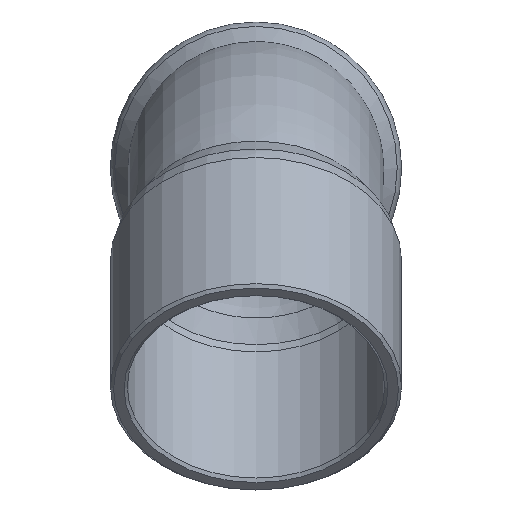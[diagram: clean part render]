
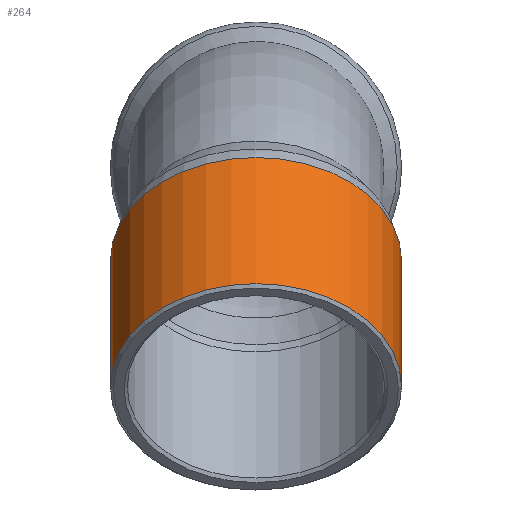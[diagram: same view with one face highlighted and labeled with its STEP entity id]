
A CAD part, top view. The second image highlights one B-rep face of the part: STEP entity #264.
In plain terms, the highlighted free-form (B-spline) face has degree [1, 2] with [2, 9] control points.
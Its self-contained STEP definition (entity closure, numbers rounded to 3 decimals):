
#192=CARTESIAN_POINT('',(0.,11.842,27.964));
#193=VERTEX_POINT('',#192);
#194=CARTESIAN_POINT('',(0.0,5.445,21.567));
#195=DIRECTION('',(0.0,-0.707,0.707));
#196=DIRECTION('',(0.0,-0.707,-0.707));
#197=AXIS2_PLACEMENT_3D('',#194,#195,#196);
#198=CIRCLE('',#197,9.048);
#199=EDGE_CURVE('',#193,#193,#198,.T.);
#224=CARTESIAN_POINT('',(0.,13.294,0.923));
#225=CARTESIAN_POINT('',(0.,-7.35,21.567));
#226=CARTESIAN_POINT('',(-9.047,13.294,0.923));
#227=CARTESIAN_POINT('',(-9.047,-7.35,21.567));
#228=CARTESIAN_POINT('',(-9.047,19.691,7.32));
#229=CARTESIAN_POINT('',(-9.047,-0.953,27.964));
#230=CARTESIAN_POINT('',(-9.047,26.089,13.718));
#231=CARTESIAN_POINT('',(-9.047,5.445,34.362));
#232=CARTESIAN_POINT('',(0.,26.089,13.718));
#233=CARTESIAN_POINT('',(0.,5.445,34.362));
#234=CARTESIAN_POINT('',(9.047,26.089,13.718));
#235=CARTESIAN_POINT('',(9.047,5.445,34.362));
#236=CARTESIAN_POINT('',(9.047,19.691,7.32));
#237=CARTESIAN_POINT('',(9.047,-0.953,27.964));
#238=CARTESIAN_POINT('',(9.047,13.294,0.923));
#239=CARTESIAN_POINT('',(9.047,-7.35,21.567));
#240=CARTESIAN_POINT('',(0.,13.294,0.923));
#241=CARTESIAN_POINT('',(0.,-7.35,21.567));
#249=(BOUNDED_SURFACE()B_SPLINE_SURFACE(1,2,((#224,#226,#228,#230,#232,#234,#236,#238,#240),(#225,#227,#229,#231,#233,#235,#237,#239,#241)),.UNSPECIFIED.,.F.,.T.,.U.)B_SPLINE_SURFACE_WITH_KNOTS((2,2),(3,2,2,2,3),(-1.624,1.602),(0.0,14.212,28.424,42.635,56.847),.UNSPECIFIED.)GEOMETRIC_REPRESENTATION_ITEM()RATIONAL_B_SPLINE_SURFACE(((1.0,0.707,1.0,0.707,1.0,0.707,1.0,0.707,1.0),(1.0,0.707,1.0,0.707,1.0,0.707,1.0,0.707,1.0)))REPRESENTATION_ITEM('')SURFACE());
#250=CARTESIAN_POINT('',(0.0,19.691,20.115));
#251=VERTEX_POINT('',#250);
#252=CARTESIAN_POINT('',(0.0,13.294,13.718));
#253=DIRECTION('',(0.0,0.707,-0.707));
#254=DIRECTION('',(0.0,0.707,0.707));
#255=AXIS2_PLACEMENT_3D('',#252,#253,#254);
#256=CIRCLE('',#255,9.048);
#257=EDGE_CURVE('',#251,#251,#256,.T.);
#258=ORIENTED_EDGE('',*,*,#257,.F.);
#259=EDGE_LOOP('',(#258));
#260=FACE_OUTER_BOUND('',#259,.T.);
#261=ORIENTED_EDGE('',*,*,#199,.F.);
#262=EDGE_LOOP('',(#261));
#263=FACE_BOUND('',#262,.T.);
#264=ADVANCED_FACE('',(#260,#263),#249,.T.);
